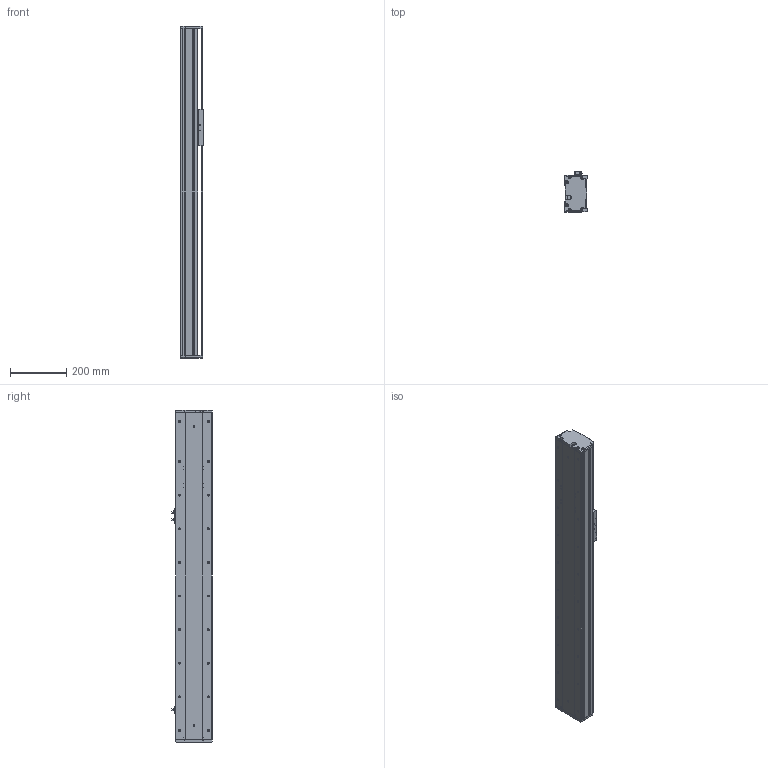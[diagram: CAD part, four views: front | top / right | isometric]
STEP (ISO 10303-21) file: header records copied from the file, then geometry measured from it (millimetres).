
FILE_DESCRIPTION (( 'STEP AP214' ), '1' );
FILE_NAME ('KSD130S-P2010-S700-M-CM.STEP', '2019-09-10T06:52:28', ( '微软用户' ), ( '微软中国' ), 'SwSTEP 2.0', 'SolidWorks 2014', '' );
FILE_SCHEMA (( 'AUTOMOTIVE_DESIGN' ));
Length unit declared in the file: millimetre
Products named in the file (8): U倰嫖萇EEㄜSX672; 覜茼え100遵圉猾敕; 130宽盖板半封闭丝杠内装-700行程; 130宽滚珠丝杆安装板半封闭-内装-20丝杆; 130宽端盖半封闭-内装; 130宽底板半封闭丝杠内装-700行程; KSD130S-P2010-S700-M-CM; 130宽马达安装板半封闭-内装
Assembly tree (9 placements, depth 2):
  KSD130S-P2010-S700-M-CM
    130宽底板半封闭丝杠内装-700行程
    130宽端盖半封闭-内装
    130宽滚珠丝杆安装板半封闭-内装-20丝杆
    130宽盖板半封闭丝杠内装-700行程
    覜茼え100遵圉猾敕
    U倰嫖萇EEㄜSX672  x3
    130宽马达安装板半封闭-内装
Bounding box: 80 x 143.7 x 1185 mm (x, y, z)
Volume: 3570076.6 mm3; surface area: 1092967.9 mm2
Topology: 9 solids, 9 shells, 1113 faces, 3244 edges, 2058 vertices
Faces by surface type: cylinder 504, plane 451, cone 158
Entity records: 36248 total; most frequent: CARTESIAN_POINT 7047, DIRECTION 5262, ORIENTED_EDGE 5168, EDGE_CURVE 2584, AXIS2_PLACEMENT_3D 1917, VERTEX_POINT 1682, VECTOR 1428, LINE 1428
